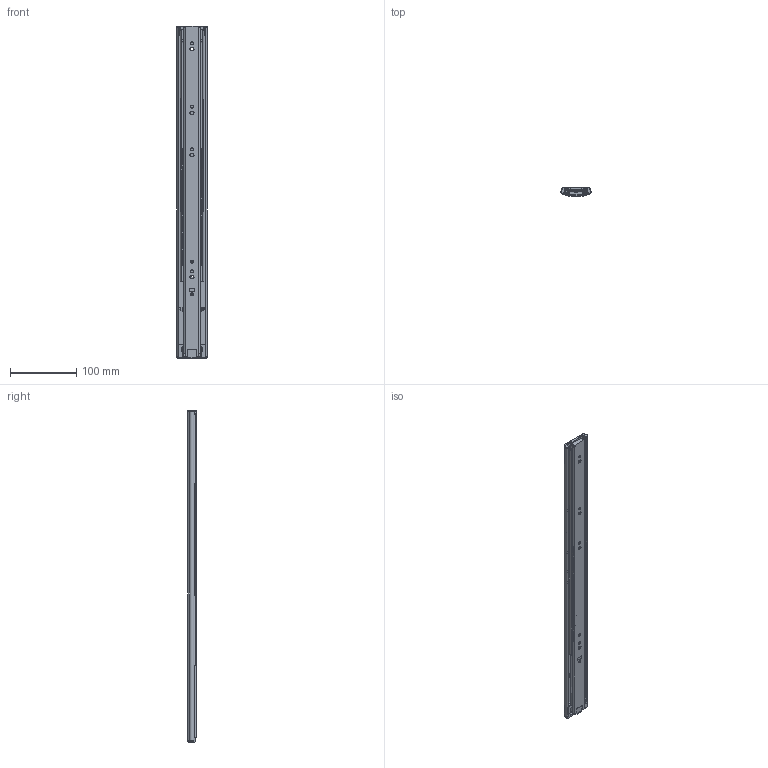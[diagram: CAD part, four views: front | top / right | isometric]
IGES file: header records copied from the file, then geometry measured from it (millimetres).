
Global section: file name: No Iges File Name specified; native system: Autodesk Inventor 2010; preprocessor: AutoDesk Inventor Iges Exporter R2010; author: jennes; date: 20110120.113303; units: millimetre
Bounding box: 45.98 x 12.5 x 501.1 mm (x, y, z)
Volume: 115288.1 mm3; surface area: 182285.1 mm2
Topology: 61 solids, 61 shells, 1854 faces, 5448 edges, 3417 vertices
Faces by surface type: plane 983, cylinder 389, revolution 267, sphere 108, torus 59, bspline 48
